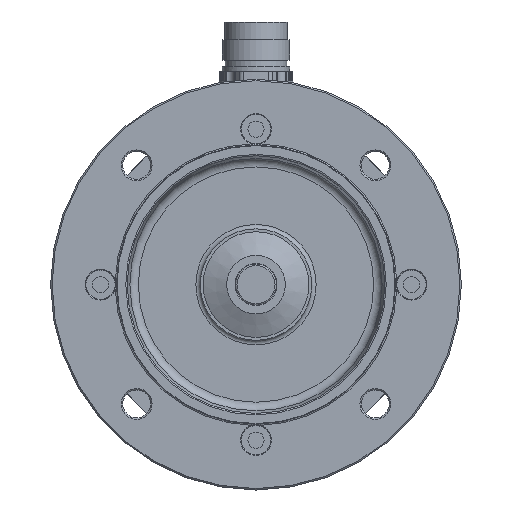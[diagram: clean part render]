
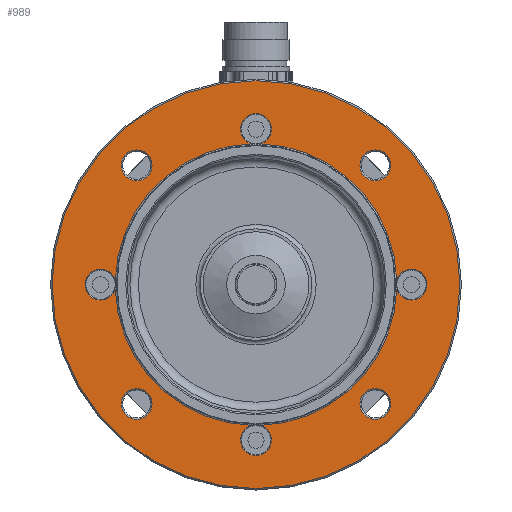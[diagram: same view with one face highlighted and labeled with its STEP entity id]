
A CAD part, front view. The second image highlights one B-rep face of the part: STEP entity #989.
In plain terms, the highlighted planar face has unit normal (0, -1, 0).
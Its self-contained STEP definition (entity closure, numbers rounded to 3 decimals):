
#422=PLANE('',#5800);
#517=FACE_BOUND('',#1831,.T.);
#518=FACE_BOUND('',#1832,.T.);
#519=FACE_BOUND('',#1833,.T.);
#520=FACE_BOUND('',#1834,.T.);
#521=FACE_BOUND('',#1835,.T.);
#989=ADVANCED_FACE('',(#1566,#517,#518,#519,#520,#521),#422,.T.);
#1566=FACE_OUTER_BOUND('',#1830,.T.);
#1830=EDGE_LOOP('',(#3077));
#1831=EDGE_LOOP('',(#3078,#3079,#3080,#3081,#3082,#3083,#3084,#3085));
#1832=EDGE_LOOP('',(#3086));
#1833=EDGE_LOOP('',(#3087));
#1834=EDGE_LOOP('',(#3088));
#1835=EDGE_LOOP('',(#3089));
#2561=CIRCLE('',#5787,69.5);
#2562=CIRCLE('',#5788,5.25);
#2563=CIRCLE('',#5789,48.);
#2564=CIRCLE('',#5790,5.25);
#2565=CIRCLE('',#5791,48.);
#2566=CIRCLE('',#5792,5.25);
#2567=CIRCLE('',#5793,48.);
#2568=CIRCLE('',#5794,5.25);
#2569=CIRCLE('',#5795,48.);
#2570=CIRCLE('',#5796,5.25);
#2571=CIRCLE('',#5797,5.25);
#2572=CIRCLE('',#5798,5.25);
#2573=CIRCLE('',#5799,5.25);
#3077=ORIENTED_EDGE('',*,*,#4912,.T.);
#3078=ORIENTED_EDGE('',*,*,#4913,.T.);
#3079=ORIENTED_EDGE('',*,*,#4914,.T.);
#3080=ORIENTED_EDGE('',*,*,#4915,.T.);
#3081=ORIENTED_EDGE('',*,*,#4916,.T.);
#3082=ORIENTED_EDGE('',*,*,#4917,.T.);
#3083=ORIENTED_EDGE('',*,*,#4918,.T.);
#3084=ORIENTED_EDGE('',*,*,#4919,.T.);
#3085=ORIENTED_EDGE('',*,*,#4920,.T.);
#3086=ORIENTED_EDGE('',*,*,#4921,.T.);
#3087=ORIENTED_EDGE('',*,*,#4922,.T.);
#3088=ORIENTED_EDGE('',*,*,#4923,.T.);
#3089=ORIENTED_EDGE('',*,*,#4924,.T.);
#4375=VERTEX_POINT('',#8634);
#4376=VERTEX_POINT('',#8636);
#4377=VERTEX_POINT('',#8637);
#4378=VERTEX_POINT('',#8639);
#4379=VERTEX_POINT('',#8641);
#4380=VERTEX_POINT('',#8643);
#4381=VERTEX_POINT('',#8645);
#4382=VERTEX_POINT('',#8647);
#4383=VERTEX_POINT('',#8649);
#4384=VERTEX_POINT('',#8652);
#4385=VERTEX_POINT('',#8654);
#4386=VERTEX_POINT('',#8656);
#4387=VERTEX_POINT('',#8658);
#4912=EDGE_CURVE('',#4375,#4375,#2561,.T.);
#4913=EDGE_CURVE('',#4376,#4377,#2562,.T.);
#4914=EDGE_CURVE('',#4377,#4378,#2563,.T.);
#4915=EDGE_CURVE('',#4378,#4379,#2564,.T.);
#4916=EDGE_CURVE('',#4379,#4380,#2565,.T.);
#4917=EDGE_CURVE('',#4380,#4381,#2566,.T.);
#4918=EDGE_CURVE('',#4381,#4382,#2567,.T.);
#4919=EDGE_CURVE('',#4382,#4383,#2568,.T.);
#4920=EDGE_CURVE('',#4383,#4376,#2569,.T.);
#4921=EDGE_CURVE('',#4384,#4384,#2570,.T.);
#4922=EDGE_CURVE('',#4385,#4385,#2571,.T.);
#4923=EDGE_CURVE('',#4386,#4386,#2572,.T.);
#4924=EDGE_CURVE('',#4387,#4387,#2573,.T.);
#5787=AXIS2_PLACEMENT_3D('',#8633,#6717,#6718);
#5788=AXIS2_PLACEMENT_3D('',#8635,#6719,#6720);
#5789=AXIS2_PLACEMENT_3D('',#8638,#6721,#6722);
#5790=AXIS2_PLACEMENT_3D('',#8640,#6723,#6724);
#5791=AXIS2_PLACEMENT_3D('',#8642,#6725,#6726);
#5792=AXIS2_PLACEMENT_3D('',#8644,#6727,#6728);
#5793=AXIS2_PLACEMENT_3D('',#8646,#6729,#6730);
#5794=AXIS2_PLACEMENT_3D('',#8648,#6731,#6732);
#5795=AXIS2_PLACEMENT_3D('',#8650,#6733,#6734);
#5796=AXIS2_PLACEMENT_3D('',#8651,#6735,#6736);
#5797=AXIS2_PLACEMENT_3D('',#8653,#6737,#6738);
#5798=AXIS2_PLACEMENT_3D('',#8655,#6739,#6740);
#5799=AXIS2_PLACEMENT_3D('',#8657,#6741,#6742);
#5800=AXIS2_PLACEMENT_3D('',#8659,#6743,#6744);
#6717=DIRECTION('',(0.,-1.,0.));
#6718=DIRECTION('',(0.,0.,-1.));
#6719=DIRECTION('',(0.,1.,0.));
#6720=DIRECTION('',(0.,0.,-1.));
#6721=DIRECTION('',(0.,1.,0.));
#6722=DIRECTION('',(0.,0.,-1.));
#6723=DIRECTION('',(0.,1.,0.));
#6724=DIRECTION('',(0.,0.,-1.));
#6725=DIRECTION('',(0.,1.,0.));
#6726=DIRECTION('',(0.,0.,-1.));
#6727=DIRECTION('',(0.,1.,0.));
#6728=DIRECTION('',(0.,0.,-1.));
#6729=DIRECTION('',(0.,1.,0.));
#6730=DIRECTION('',(0.,0.,-1.));
#6731=DIRECTION('',(0.,1.,0.));
#6732=DIRECTION('',(0.,0.,-1.));
#6733=DIRECTION('',(0.,1.,0.));
#6734=DIRECTION('',(0.,0.,-1.));
#6735=DIRECTION('',(0.,1.,0.));
#6736=DIRECTION('',(0.,0.,-1.));
#6737=DIRECTION('',(0.,1.,0.));
#6738=DIRECTION('',(0.,0.,-1.));
#6739=DIRECTION('',(0.,1.,0.));
#6740=DIRECTION('',(0.,0.,-1.));
#6741=DIRECTION('',(0.,1.,0.));
#6742=DIRECTION('',(0.,0.,-1.));
#6743=DIRECTION('',(0.,-1.,0.));
#6744=DIRECTION('',(0.,0.,-1.));
#8633=CARTESIAN_POINT('',(0.,0.,0.));
#8634=CARTESIAN_POINT('',(0.,0.,-69.5));
#8635=CARTESIAN_POINT('',(0.,0.,-53.));
#8636=CARTESIAN_POINT('',(1.523,0.,-47.976));
#8637=CARTESIAN_POINT('',(-1.523,0.,-47.976));
#8638=CARTESIAN_POINT('',(0.,0.,0.));
#8639=CARTESIAN_POINT('',(-47.976,0.,-1.523));
#8640=CARTESIAN_POINT('',(-53.,0.,0.));
#8641=CARTESIAN_POINT('',(-47.976,0.,1.523));
#8642=CARTESIAN_POINT('',(0.,0.,0.));
#8643=CARTESIAN_POINT('',(-1.523,0.,47.976));
#8644=CARTESIAN_POINT('',(0.,0.,53.));
#8645=CARTESIAN_POINT('',(1.523,0.,47.976));
#8646=CARTESIAN_POINT('',(0.,0.,0.));
#8647=CARTESIAN_POINT('',(47.976,0.,1.523));
#8648=CARTESIAN_POINT('',(53.,0.,0.));
#8649=CARTESIAN_POINT('',(47.976,0.,-1.523));
#8650=CARTESIAN_POINT('',(0.,0.,0.));
#8651=CARTESIAN_POINT('',(-40.659,0.,-40.659));
#8652=CARTESIAN_POINT('',(-40.659,0.,-45.909));
#8653=CARTESIAN_POINT('',(-40.659,0.,40.659));
#8654=CARTESIAN_POINT('',(-40.659,0.,35.409));
#8655=CARTESIAN_POINT('',(40.659,0.,-40.659));
#8656=CARTESIAN_POINT('',(40.659,0.,-45.909));
#8657=CARTESIAN_POINT('',(40.659,0.,40.659));
#8658=CARTESIAN_POINT('',(40.659,0.,35.409));
#8659=CARTESIAN_POINT('',(0.,0.,0.));
